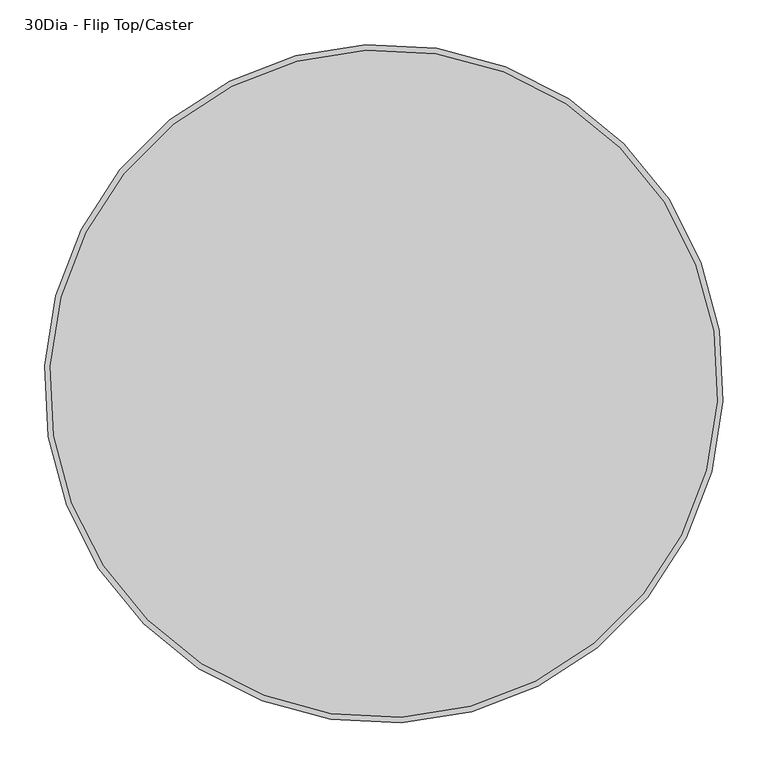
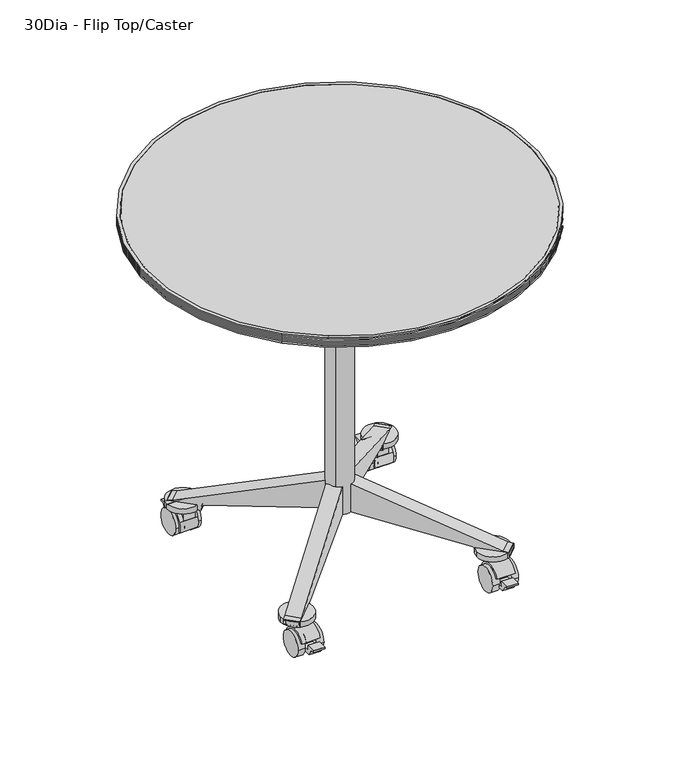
"""IFC4 building model written with IfcOpenShell, lengths in millimetres: furniture geometry, Coalesse_AM_Table_Conference_Ballet_Table_Round : 30Dia - Flip Top/Caster."""

from ifc_helpers import new_model, si_unit, point, frame, frame_2d, origin, origin_2d, place, context, project, spatial, polyline, circle_curve, trimmed, segment, composite_curve, outline, extrude, source, transform, mapped, element, save
from ifc_brep_helpers import plane_surface, cylinder_surface, revolved_surface, advanced_brep


def furniture_30dia_flip_top_caster_9c263363(model_context):
    return source(origin(), model_context, "Body", "SolidModel", [
        extrude(outline(composite_curve([segment(trimmed(circle_curve(frame_2d((1.04e-05, -1.04e-05)), 25.3999999), [point((-17.9605018, -17.9605225))], [point((17.9605225, 17.9605018))], False, "CARTESIAN"), True, "CONTINUOUS"), segment(trimmed(circle_curve(frame_2d((1.04e-05, -1.04e-05)), 25.3999999), [point((17.9605225, 17.9605018))], [point((-17.9605018, -17.9605225))], False, "CARTESIAN"), True, "CONTINUOUS")], self_intersect=False)), frame((0.0, 0.0, 607.6784119), z_axis=(0.0, 0.0, 1.0), x_axis=(1.0, 0.0, 0.0)), (0.0, 0.0, 1.0), 50.3081696),
        extrude(outline(composite_curve([segment(trimmed(circle_curve(frame_2d((209.2741105, 25.3444377)), 28.8343721), [point((182.4395783, 14.7931869))], [point((182.4395783, 35.8956886))], False, "CARTESIAN"), True, "CONTINUOUS"), segment(trimmed(circle_curve(frame_2d((207.8788336, 25.8930561)), 27.3351124), [point((182.4395783, 35.8956886))], [point((197.8152878, 51.3082762))], False, "CARTESIAN"), True, "CONTINUOUS"), segment(trimmed(circle_curve(frame_2d((209.4353674, 26.7032164)), 27.2109394), [point((197.8152878, 51.3082762))], [point((234.6796249, 36.8601197))], False, "CARTESIAN"), True, "CONTINUOUS"), segment(polyline([(234.6796249, 36.8601197), (231.2540436, 35.7749086)]), True, "CONTINUOUS"), segment(trimmed(circle_curve(frame_2d((208.7663144, 24.9907393)), 24.9398531), [point((231.2540436, 35.7749086))], [point((185.3508649, 16.4051117))], True, "CARTESIAN"), True, "CONTINUOUS"), segment(polyline([(185.3508649, 16.4051117), (182.4395783, 14.7931869)]), True, "CONTINUOUS")], self_intersect=False)), frame((174.0984431, 0.0, 0.0), z_axis=(1.0, 0.0, 0.0), x_axis=(0.0, 1.0, 0.0)), (0.0, 0.0, 1.0), 36.0286787),
        extrude(outline(composite_curve([segment(trimmed(circle_curve(frame_2d((208.7663144, 24.9907393)), 24.9398531), [point((233.7061675, 24.9907393))], [point((183.8264612, 24.9907393))], False, "CARTESIAN"), True, "CONTINUOUS"), segment(trimmed(circle_curve(frame_2d((208.7663144, 24.9907393)), 24.9398531), [point((183.8264612, 24.9907393))], [point((233.7061675, 24.9907393))], False, "CARTESIAN"), True, "CONTINUOUS")], self_intersect=False)), frame((166.2968952, 0.0, 0.0), z_axis=(1.0, 0.0, 0.0), x_axis=(0.0, 1.0, 0.0)), (0.0, 0.0, 1.0), 14.6120158),
        extrude(outline(composite_curve([segment(polyline([(197.8152878, 63.5225277), (197.8152878, 51.3082762)]), True, "CONTINUOUS"), segment(trimmed(circle_curve(frame_2d((209.4353674, 26.7032164)), 27.2109394), [point((197.8152878, 51.3082762))], [point((234.6796249, 36.8601197))], False, "CARTESIAN"), True, "CONTINUOUS"), segment(polyline([(234.6796249, 36.8601197), (219.8001714, 32.1463658), (222.0637731, 25.0010719), (241.3530844, 25.0010719), (241.3530844, 35.1210973), (260.4030844, 35.1210973), (260.4030844, 31.7691038), (253.6776476, 31.7691038), (244.706152, 17.4117096), (218.9375545, 17.4117096)]), True, "CONTINUOUS"), segment(trimmed(circle_curve(frame_2d((208.672695, 25.0010719)), 12.7658043), [point((218.9375545, 17.4117096))], [point((198.9802659, 16.6930892))], False, "CARTESIAN"), True, "CONTINUOUS"), segment(polyline([(198.9802659, 16.6930892), (195.904393, 22.2484025), (182.4395783, 14.7931869)]), True, "CONTINUOUS"), segment(trimmed(circle_curve(frame_2d((209.2741105, 25.3444377)), 28.8343721), [point((182.4395783, 14.7931869))], [point((182.4395783, 35.8956886))], False, "CARTESIAN"), True, "CONTINUOUS"), segment(polyline([(182.4395783, 35.8956886), (182.4395783, 63.5225277), (197.8152878, 63.5225277)]), True, "CONTINUOUS")], self_intersect=False)), frame((179.2633359, 0.0, 0.0), z_axis=(1.0, 0.0, 0.0), x_axis=(0.0, 1.0, 0.0)), (0.0, 0.0, 1.0), 22.3970625),
        extrude(outline(composite_curve([segment(trimmed(circle_curve(frame_2d((208.7663144, 24.9907393)), 24.9398531), [point((233.7061675, 24.9907393))], [point((183.8264612, 24.9907393))], False, "CARTESIAN"), True, "CONTINUOUS"), segment(trimmed(circle_curve(frame_2d((208.7663144, 24.9907393)), 24.9398531), [point((183.8264612, 24.9907393))], [point((233.7061675, 24.9907393))], False, "CARTESIAN"), True, "CONTINUOUS")], self_intersect=False)), frame((203.3322938, 0.0, 0.0), z_axis=(1.0, 0.0, 0.0), x_axis=(0.0, 1.0, 0.0)), (0.0, 0.0, 1.0), 13.7103424),
        extrude(outline(composite_curve([segment(trimmed(circle_curve(frame_2d((209.2741105, 25.3444377)), 28.8343721), [point((182.4395783, 14.7931869))], [point((182.4395783, 35.8956886))], False, "CARTESIAN"), True, "CONTINUOUS"), segment(trimmed(circle_curve(frame_2d((207.8788336, 25.8930561)), 27.3351124), [point((182.4395783, 35.8956886))], [point((197.8152878, 51.3082762))], False, "CARTESIAN"), True, "CONTINUOUS"), segment(trimmed(circle_curve(frame_2d((209.4353674, 26.7032164)), 27.2109394), [point((197.8152878, 51.3082762))], [point((234.6796249, 36.8601197))], False, "CARTESIAN"), True, "CONTINUOUS"), segment(polyline([(234.6796249, 36.8601197), (231.2540436, 35.7749086)]), True, "CONTINUOUS"), segment(trimmed(circle_curve(frame_2d((208.7663144, 24.9907393)), 24.9398531), [point((231.2540436, 35.7749086))], [point((185.3508649, 16.4051117))], True, "CARTESIAN"), True, "CONTINUOUS"), segment(polyline([(185.3508649, 16.4051117), (182.4395783, 14.7931869)]), True, "CONTINUOUS")], self_intersect=False)), frame((-210.1271218, 0.0, 0.0), z_axis=(1.0, 0.0, 0.0), x_axis=(0.0, 1.0, 0.0)), (0.0, 0.0, 1.0), 36.0286787),
        extrude(outline(composite_curve([segment(trimmed(circle_curve(frame_2d((208.7663144, 24.9907393)), 24.9398531), [point((233.7061675, 24.9907393))], [point((183.8264612, 24.9907393))], False, "CARTESIAN"), True, "CONTINUOUS"), segment(trimmed(circle_curve(frame_2d((208.7663144, 24.9907393)), 24.9398531), [point((183.8264612, 24.9907393))], [point((233.7061675, 24.9907393))], False, "CARTESIAN"), True, "CONTINUOUS")], self_intersect=False)), frame((-180.908911, 0.0, 0.0), z_axis=(1.0, 0.0, 0.0), x_axis=(0.0, 1.0, 0.0)), (0.0, 0.0, 1.0), 14.6120158),
        extrude(outline(composite_curve([segment(polyline([(197.8152878, 63.5225277), (197.8152878, 51.3082762)]), True, "CONTINUOUS"), segment(trimmed(circle_curve(frame_2d((209.4353674, 26.7032164)), 27.2109394), [point((197.8152878, 51.3082762))], [point((234.6796249, 36.8601197))], False, "CARTESIAN"), True, "CONTINUOUS"), segment(polyline([(234.6796249, 36.8601197), (219.8001714, 32.1463658), (222.0637731, 25.0010719), (241.3530844, 25.0010719), (241.3530844, 35.1210973), (260.4030844, 35.1210973), (260.4030844, 31.7691038), (253.6776476, 31.7691038), (244.706152, 17.4117096), (218.9375545, 17.4117096)]), True, "CONTINUOUS"), segment(trimmed(circle_curve(frame_2d((208.672695, 25.0010719)), 12.7658043), [point((218.9375545, 17.4117096))], [point((198.9802659, 16.6930892))], False, "CARTESIAN"), True, "CONTINUOUS"), segment(polyline([(198.9802659, 16.6930892), (195.904393, 22.2484025), (182.4395783, 14.7931869)]), True, "CONTINUOUS"), segment(trimmed(circle_curve(frame_2d((209.2741105, 25.3444377)), 28.8343721), [point((182.4395783, 14.7931869))], [point((182.4395783, 35.8956886))], False, "CARTESIAN"), True, "CONTINUOUS"), segment(polyline([(182.4395783, 35.8956886), (182.4395783, 63.5225277), (197.8152878, 63.5225277)]), True, "CONTINUOUS")], self_intersect=False)), frame((-201.6603984, 0.0, 0.0), z_axis=(1.0, 0.0, 0.0), x_axis=(0.0, 1.0, 0.0)), (0.0, 0.0, 1.0), 22.3970625),
        extrude(outline(composite_curve([segment(trimmed(circle_curve(frame_2d((208.7663144, 24.9907393)), 24.9398531), [point((233.7061675, 24.9907393))], [point((183.8264612, 24.9907393))], False, "CARTESIAN"), True, "CONTINUOUS"), segment(trimmed(circle_curve(frame_2d((208.7663144, 24.9907393)), 24.9398531), [point((183.8264612, 24.9907393))], [point((233.7061675, 24.9907393))], False, "CARTESIAN"), True, "CONTINUOUS")], self_intersect=False)), frame((-217.0426362, 0.0, 0.0), z_axis=(1.0, 0.0, 0.0), x_axis=(0.0, 1.0, 0.0)), (0.0, 0.0, 1.0), 13.7103424),
        extrude(outline(composite_curve([segment(polyline([(-182.4395783, 14.7931869), (-185.3508649, 16.4051117)]), True, "CONTINUOUS"), segment(trimmed(circle_curve(frame_2d((-208.7663144, 24.9907393)), 24.9398531), [point((-185.3508649, 16.4051117))], [point((-231.2540436, 35.7749086))], True, "CARTESIAN"), True, "CONTINUOUS"), segment(polyline([(-231.2540436, 35.7749086), (-234.6796249, 36.8601197)]), True, "CONTINUOUS"), segment(trimmed(circle_curve(frame_2d((-209.4353674, 26.7032164)), 27.2109394), [point((-234.6796249, 36.8601197))], [point((-197.8152878, 51.3082762))], False, "CARTESIAN"), True, "CONTINUOUS"), segment(trimmed(circle_curve(frame_2d((-207.8788336, 25.8930561)), 27.3351124), [point((-197.8152878, 51.3082762))], [point((-182.4395783, 35.8956886))], False, "CARTESIAN"), True, "CONTINUOUS"), segment(trimmed(circle_curve(frame_2d((-209.2741105, 25.3444377)), 28.8343721), [point((-182.4395783, 35.8956886))], [point((-182.4395783, 14.7931869))], False, "CARTESIAN"), True, "CONTINUOUS")], self_intersect=False)), frame((-210.1271218, 0.0, 0.0), z_axis=(1.0, 0.0, 0.0), x_axis=(0.0, 1.0, 0.0)), (0.0, 0.0, 1.0), 36.0286787),
        extrude(outline(composite_curve([segment(trimmed(circle_curve(frame_2d((-208.7663144, 24.9907393)), 24.9398531), [point((-233.7061675, 24.9907393))], [point((-183.8264612, 24.9907393))], False, "CARTESIAN"), True, "CONTINUOUS"), segment(trimmed(circle_curve(frame_2d((-208.7663144, 24.9907393)), 24.9398531), [point((-183.8264612, 24.9907393))], [point((-233.7061675, 24.9907393))], False, "CARTESIAN"), True, "CONTINUOUS")], self_intersect=False)), frame((-180.908911, 0.0, 0.0), z_axis=(1.0, 0.0, 0.0), x_axis=(0.0, 1.0, 0.0)), (0.0, 0.0, 1.0), 14.6120158),
        extrude(outline(composite_curve([segment(polyline([(-197.8152878, 63.5225277), (-182.4395783, 63.5225277), (-182.4395783, 35.8956886)]), True, "CONTINUOUS"), segment(trimmed(circle_curve(frame_2d((-209.2741105, 25.3444377)), 28.8343721), [point((-182.4395783, 35.8956886))], [point((-182.4395783, 14.7931869))], False, "CARTESIAN"), True, "CONTINUOUS"), segment(polyline([(-182.4395783, 14.7931869), (-195.904393, 22.2484025), (-198.9802659, 16.6930892)]), True, "CONTINUOUS"), segment(trimmed(circle_curve(frame_2d((-208.672695, 25.0010719)), 12.7658043), [point((-198.9802659, 16.6930892))], [point((-218.9375545, 17.4117096))], False, "CARTESIAN"), True, "CONTINUOUS"), segment(polyline([(-218.9375545, 17.4117096), (-244.706152, 17.4117096), (-253.6776476, 31.7691038), (-260.4030844, 31.7691038), (-260.4030844, 35.1210973), (-241.3530844, 35.1210973), (-241.3530844, 25.0010719), (-222.0637731, 25.0010719), (-219.8001714, 32.1463658), (-234.6796249, 36.8601197)]), True, "CONTINUOUS"), segment(trimmed(circle_curve(frame_2d((-209.4353674, 26.7032164)), 27.2109394), [point((-234.6796249, 36.8601197))], [point((-197.8152878, 51.3082762))], False, "CARTESIAN"), True, "CONTINUOUS"), segment(polyline([(-197.8152878, 51.3082762), (-197.8152878, 63.5225277)]), True, "CONTINUOUS")], self_intersect=False)), frame((-201.6603984, 0.0, 0.0), z_axis=(1.0, 0.0, 0.0), x_axis=(0.0, 1.0, 0.0)), (0.0, 0.0, 1.0), 22.3970625),
        extrude(outline(composite_curve([segment(trimmed(circle_curve(frame_2d((-208.7663144, 24.9907393)), 24.9398531), [point((-233.7061675, 24.9907393))], [point((-183.8264612, 24.9907393))], False, "CARTESIAN"), True, "CONTINUOUS"), segment(trimmed(circle_curve(frame_2d((-208.7663144, 24.9907393)), 24.9398531), [point((-183.8264612, 24.9907393))], [point((-233.7061675, 24.9907393))], False, "CARTESIAN"), True, "CONTINUOUS")], self_intersect=False)), frame((-217.0426362, 0.0, 0.0), z_axis=(1.0, 0.0, 0.0), x_axis=(0.0, 1.0, 0.0)), (0.0, 0.0, 1.0), 13.7103424),
        extrude(outline(polyline([(158.4621346, 17.0356733), (169.8930132, 8.1048922), (169.8930132, 0.8331186), (159.98106, -9.0788345), (38.5409959, -9.0788345), (28.462086, 1.0000754), (28.462086, 7.6856478), (37.8121114, 17.0356733), (158.4621346, 17.0356733)])), frame((0.0, 0.0, 687.2912849), z_axis=(0.0, 0.0, 1.0), x_axis=(1.0, 0.0, 0.0)), (0.0, 0.0, 1.0), 6.5168503),
        extrude(outline(composite_curve([segment(trimmed(circle_curve(frame_2d((669.1002966, -84.2761543)), 7.8975043), [point((669.1002966, -92.1736586))], [point((669.1002966, -76.3786501))], False, "CARTESIAN"), True, "CONTINUOUS"), segment(trimmed(circle_curve(frame_2d((669.1002966, -84.2761543)), 7.8975043), [point((669.1002966, -76.3786501))], [point((669.1002966, -92.1736586))], False, "CARTESIAN"), True, "CONTINUOUS")], self_intersect=False)), frame((0.0, -102.0227757, 0.0), z_axis=(0.0, 1.0, 0.0), x_axis=(0.0, 0.0, 1.0)), (0.0, 0.0, 1.0), 207.3263413),
        extrude(outline(polyline([(77.1619615, -102.0227757), (72.7168839, -102.0227757), (72.7168839, 105.3035655), (77.1619615, 105.3035655), (77.1619615, -102.0227757)])), frame((0.0, 0.0, 657.9865814), z_axis=(0.0, 0.0, 1.0), x_axis=(1.0, 0.0, 0.0)), (0.0, 0.0, 1.0), 25.6753708),
        extrude(outline(polyline([(105.3035655, 652.7037643), (101.8153095, 652.7037643), (101.8153095, 700.0114872), (-94.3997971, 700.0114872), (-94.3997971, 652.7037643), (-97.8879563, 652.7037643), (-97.8879563, 704.85), (105.3035655, 704.85), (105.3035655, 652.7037643)])), frame((-111.7977681, 0.0, 0.0), z_axis=(1.0, 0.0, 0.0), x_axis=(0.0, 1.0, 0.0)), (0.0, 0.0, 1.0), 220.3746008),
        extrude(outline(polyline([(-91.8596905, 688.7419716), (99.2752998, 688.7419716), (99.2752998, 652.7037643), (94.1954742, 652.7037643), (94.1954742, 683.6619522), (-86.7795016, 683.6619522), (-86.7795016, 652.7037643), (-91.8596905, 652.7037643), (-91.8596905, 688.7419716)])), frame((-111.7977681, 0.0, 0.0), z_axis=(1.0, 0.0, 0.0), x_axis=(0.0, 1.0, 0.0)), (0.0, 0.0, 1.0), 220.3746008),
        advanced_brep(
        [(210.1271218, -182.4395783, 14.7931869), (210.1271218, -182.4395783, 35.8956886), (210.1271218, -197.8152878, 51.3082762), (210.1271218, -234.6796249, 36.8601197), (210.1271218, -231.2540436, 35.7749086), (210.1271218, -185.3508649, 16.4051117), (174.0984431, -182.4395783, 14.7931869), (174.0984431, -185.3508649, 16.4051117), (174.0984431, -231.2540436, 35.7749086), (174.0984431, -234.6796249, 36.8601197), (174.0984431, -197.8152878, 51.3082762), (174.0984431, -182.4395783, 35.8956886), (201.6603984, -197.8152878, 51.3082762), (179.2633359, -197.8152878, 51.3082762), (179.2633359, -182.4395783, 35.8956886), (201.6603984, -182.4395783, 35.8956886), (179.2633359, -231.2540436, 35.7749086), (179.2633359, -219.8001714, 32.1463658), (201.6603984, -219.8001714, 32.1463658), (201.6603984, -231.2540436, 35.7749086), (201.6603984, -185.3508649, 16.4051117), (201.6603984, -195.904393, 22.2484025), (179.2633359, -195.904393, 22.2484025), (179.2633359, -185.3508649, 16.4051117), (201.6603984, -197.8152878, 63.5225277), (201.6603984, -182.4395783, 63.5225277), (201.6603984, -222.0637731, 25.0010719), (201.6603984, -241.3530844, 25.0010719), (201.6603984, -241.3530844, 35.1210973), (201.6603984, -260.4030844, 35.1210973), (201.6603984, -260.4030844, 31.7691038), (201.6603984, -253.6776476, 31.7691038), (201.6603984, -244.706152, 17.4117096), (201.6603984, -218.9375545, 17.4117096), (201.6603984, -198.9802659, 16.6930892), (179.2633359, -197.8152878, 63.5225277), (179.2633359, -182.4395783, 63.5225277), (179.2633359, -198.9802659, 16.6930892), (179.2633359, -218.9375545, 17.4117096), (179.2633359, -244.706152, 17.4117096), (179.2633359, -253.6776476, 31.7691038), (179.2633359, -260.4030844, 31.7691038), (179.2633359, -260.4030844, 35.1210973), (179.2633359, -241.3530844, 35.1210973), (179.2633359, -241.3530844, 25.0010719), (179.2633359, -222.0637731, 25.0010719)],
        [
            (0, 1, circle_curve(frame((210.1271218, -209.2741105, 25.3444377), z_axis=(1.0, 0.0, 0.0), x_axis=(0.0, 1.0, 0.0)), 28.8343721)),
            (1, 2, circle_curve(frame((210.1271218, -207.8788336, 25.8930561), z_axis=(1.0, 0.0, 0.0), x_axis=(0.0, 1.0, 0.0)), 27.3351124)),
            (2, 3, circle_curve(frame((210.1271218, -209.4353674, 26.7032164), z_axis=(1.0, 0.0, 0.0), x_axis=(0.0, 1.0, 0.0)), 27.2109394)),
            (3, 4),
            (4, 5, circle_curve(frame((210.1271218, -208.7663144, 24.9907393), z_axis=(-1.0, 0.0, 0.0), x_axis=(0.0, 1.0, 0.0)), 24.9398531)),
            (5, 0),
            (6, 7),
            (7, 8, circle_curve(frame((174.0984431, -208.7663144, 24.9907393), z_axis=(1.0, 0.0, 0.0), x_axis=(0.0, 1.0, 0.0)), 24.9398531)),
            (8, 9),
            (9, 10, circle_curve(frame((174.0984431, -209.4353674, 26.7032164), z_axis=(-1.0, 0.0, 0.0), x_axis=(0.0, 1.0, 0.0)), 27.2109394)),
            (10, 11, circle_curve(frame((174.0984431, -207.8788336, 25.8930561), z_axis=(-1.0, 0.0, 0.0), x_axis=(0.0, 1.0, 0.0)), 27.3351124)),
            (11, 6, circle_curve(frame((174.0984431, -209.2741105, 25.3444377), z_axis=(-1.0, 0.0, 0.0), x_axis=(0.0, 1.0, 0.0)), 28.8343721)),
            (9, 3),
            (2, 12),
            (12, 13),
            (13, 10),
            (0, 6),
            (11, 14),
            (14, 15),
            (15, 1),
            (8, 16),
            (16, 17),
            (17, 18),
            (18, 19),
            (19, 4),
            (5, 20),
            (20, 21),
            (21, 22),
            (22, 23),
            (23, 7),
            (15, 12, circle_curve(frame((201.6603984, -207.8788336, 25.8930561), z_axis=(1.0, 0.0, 0.0), x_axis=(0.0, 1.0, 0.0)), 27.3351124)),
            (13, 14, circle_curve(frame((179.2633359, -207.8788336, 25.8930561), z_axis=(-1.0, 0.0, 0.0), x_axis=(0.0, 1.0, 0.0)), 27.3351124)),
            (19, 20, circle_curve(frame((201.6603984, -208.7663144, 24.9907393), z_axis=(-1.0, 0.0, 0.0), x_axis=(0.0, 1.0, 0.0)), 24.9398531)),
            (23, 16, circle_curve(frame((179.2633359, -208.7663144, 24.9907393), z_axis=(1.0, 0.0, 0.0), x_axis=(0.0, 1.0, 0.0)), 24.9398531)),
            (24, 12),
            (15, 25),
            (25, 24),
            (18, 26),
            (26, 27),
            (27, 28),
            (28, 29),
            (29, 30),
            (30, 31),
            (31, 32),
            (32, 33),
            (33, 34, circle_curve(frame((201.6603984, -208.672695, 25.0010719), z_axis=(1.0, 0.0, 0.0), x_axis=(0.0, 1.0, 0.0)), 12.7658043)),
            (34, 21),
            (35, 36),
            (36, 14),
            (13, 35),
            (22, 37),
            (37, 38, circle_curve(frame((179.2633359, -208.672695, 25.0010719), z_axis=(-1.0, 0.0, 0.0), x_axis=(0.0, 1.0, 0.0)), 12.7658043)),
            (38, 39),
            (39, 40),
            (40, 41),
            (41, 42),
            (42, 43),
            (43, 44),
            (44, 45),
            (45, 17),
            (24, 35),
            (36, 25),
            (45, 26),
            (33, 38),
            (37, 34),
            (44, 27),
            (43, 28),
            (42, 29),
            (41, 30),
            (40, 31),
            (39, 32),
        ],
        [
            plane_surface(frame((210.1271218, -180.4397384, 25.3444377), z_axis=(1.0, 0.0, 0.0), x_axis=(0.0, 0.0, 1.0))),
            plane_surface(frame((174.0984431, -180.4397384, 25.3444377), z_axis=(-1.0, 0.0, 0.0), x_axis=(0.0, 0.0, -1.0))),
            cylinder_surface(frame((174.0984431, -209.4353674, 26.7032164), z_axis=(1.0, 0.0, 0.0), x_axis=(0.0, 1.0, 0.0)), 27.2109394),
            cylinder_surface(frame((174.0984431, -209.2741105, 25.3444377), z_axis=(1.0, 0.0, 0.0), x_axis=(0.0, 1.0, 0.0)), 28.8343721),
            plane_surface(frame((210.1271218, -234.6796249, 36.8601197), z_axis=(0.0, -0.30200390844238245, -0.9533066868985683), x_axis=(-1.0, 0.0, 0.0))),
            plane_surface(frame((210.1271218, -185.3508649, 16.4051117), z_axis=(0.0, -0.4843894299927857, -0.8748524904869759), x_axis=(-1.0, 0.0, 0.0))),
            cylinder_surface(frame((174.0984431, -207.8788336, 25.8930561), z_axis=(1.0, 0.0, 0.0), x_axis=(0.0, 1.0, 0.0)), 27.3351124),
            revolved_surface(polyline([(201.6603984, -183.8264613, 24.9907393), (210.1271218, -183.8264613, 24.9907393)]), (174.0984431, -208.7663144, 24.9907393), (-1.0, 0.0, 0.0)),
            revolved_surface(polyline([(174.0984431, -183.8264613, 24.9907393), (179.2633359, -183.8264613, 24.9907393)]), (174.0984431, -208.7663144, 24.9907393), (-1.0, 0.0, 0.0)),
            plane_surface(frame((201.6603984, -197.8152878, 63.5225277), z_axis=(1.0, 0.0, 0.0), x_axis=(0.0, 0.0, -1.0))),
            plane_surface(frame((179.2633359, -197.8152878, 63.5225277), z_axis=(-1.0, 0.0, 0.0), x_axis=(0.0, 0.0, 1.0))),
            plane_surface(frame((201.6603984, -197.8152878, 63.5225277), z_axis=(0.0, -1.0, 0.0), x_axis=(-1.0, 0.0, 0.0))),
            plane_surface(frame((201.6603984, -182.4395783, 35.8956886), z_axis=(0.0, 1.0, 0.0), x_axis=(-1.0, 0.0, 0.0))),
            plane_surface(frame((201.6603984, -182.4395783, 63.5225277), z_axis=(0.0, 0.0, 1.0), x_axis=(-1.0, 0.0, 0.0))),
            plane_surface(frame((201.6603984, -219.8001714, 32.1463658), z_axis=(0.0, -0.9533066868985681, 0.3020039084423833), x_axis=(-1.0, 0.0, 0.0))),
            cylinder_surface(frame((179.2633359, -208.672695, 25.0010719), z_axis=(1.0, 0.0, 0.0), x_axis=(0.0, 1.0, 0.0)), 12.7658043),
            plane_surface(frame((201.6603984, -198.9802659, 16.6930892), z_axis=(0.0, 0.8748524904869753, -0.48438942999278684), x_axis=(-1.0, 0.0, 0.0))),
            plane_surface(frame((201.6603984, -222.0637731, 25.0010719), z_axis=(0.0, 0.0, 1.0), x_axis=(-1.0, 0.0, 0.0))),
            plane_surface(frame((201.6603984, -241.3530844, 25.0010719), z_axis=(0.0, 1.0, 0.0), x_axis=(-1.0, 0.0, 0.0))),
            plane_surface(frame((201.6603984, -241.3530844, 35.1210973), z_axis=(0.0, 0.0, 1.0), x_axis=(-1.0, 0.0, 0.0))),
            plane_surface(frame((201.6603984, -260.4030844, 35.1210973), z_axis=(0.0, -1.0, 0.0), x_axis=(-1.0, 0.0, 0.0))),
            plane_surface(frame((201.6603984, -260.4030844, 31.7691038), z_axis=(0.0, 0.0, -1.0), x_axis=(-1.0, 0.0, 0.0))),
            plane_surface(frame((201.6603984, -253.6776476, 31.7691038), z_axis=(0.0, -0.8480480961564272, -0.529919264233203), x_axis=(-1.0, 0.0, 0.0))),
            plane_surface(frame((201.6603984, -244.706152, 17.4117096), z_axis=(0.0, 0.0, -1.0), x_axis=(-1.0, 0.0, 0.0))),
        ],
        [
            (0, [[1, 2, 3, 4, 5, 6]]),
            (1, [[7, 8, 9, 10, 11, 12]]),
            (2, [[13, -3, 14, 15, 16, -10]]),
            (3, [[-1, 17, -12, 18, 19, 20]]),
            (4, [[-4, -13, -9, 21, 22, 23, 24, 25]]),
            (5, [[-6, 26, 27, 28, 29, 30, -7, -17]]),
            (6, [[-2, -20, 31, -14]]),
            (6, [[-11, -16, 32, -18]]),
            (7, [[-5, -25, 33, -26]]),
            (8, [[-8, -30, 34, -21]]),
            (9, [[35, -31, 36, 37]]),
            (9, [[38, 39, 40, 41, 42, 43, 44, 45, 46, 47, -27, -33, -24]]),
            (10, [[48, 49, -32, 50]]),
            (10, [[51, 52, 53, 54, 55, 56, 57, 58, 59, 60, -22, -34, -29]]),
            (11, [[-35, 61, -50, -15]]),
            (12, [[-36, -19, -49, 62]]),
            (13, [[-37, -62, -48, -61]]),
            (14, [[-38, -23, -60, 63]]),
            (15, [[-46, 64, -52, 65]]),
            (16, [[-47, -65, -51, -28]]),
            (17, [[-39, -63, -59, 66]]),
            (18, [[-40, -66, -58, 67]]),
            (19, [[-41, -67, -57, 68]]),
            (20, [[-42, -68, -56, 69]]),
            (21, [[-43, -69, -55, 70]]),
            (22, [[-44, -70, -54, 71]]),
            (23, [[-45, -71, -53, -64]]),
        ],
    ),
        extrude(outline(composite_curve([segment(trimmed(circle_curve(frame_2d((-208.7663144, 24.9907393)), 24.9398531), [point((-233.7061675, 24.9907393))], [point((-183.8264612, 24.9907393))], False, "CARTESIAN"), True, "CONTINUOUS"), segment(trimmed(circle_curve(frame_2d((-208.7663144, 24.9907393)), 24.9398531), [point((-183.8264612, 24.9907393))], [point((-233.7061675, 24.9907393))], False, "CARTESIAN"), True, "CONTINUOUS")], self_intersect=False)), frame((166.2968952, 0.0, 0.0), z_axis=(1.0, 0.0, 0.0), x_axis=(0.0, 1.0, 0.0)), (0.0, 0.0, 1.0), 14.6120158),
        extrude(outline(composite_curve([segment(trimmed(circle_curve(frame_2d((-208.7663144, 24.9907393)), 24.9398531), [point((-233.7061675, 24.9907393))], [point((-183.8264612, 24.9907393))], False, "CARTESIAN"), True, "CONTINUOUS"), segment(trimmed(circle_curve(frame_2d((-208.7663144, 24.9907393)), 24.9398531), [point((-183.8264612, 24.9907393))], [point((-233.7061675, 24.9907393))], False, "CARTESIAN"), True, "CONTINUOUS")], self_intersect=False)), frame((203.3322938, 0.0, 0.0), z_axis=(1.0, 0.0, 0.0), x_axis=(0.0, 1.0, 0.0)), (0.0, 0.0, 1.0), 13.7103424),
        extrude(outline(composite_curve([segment(trimmed(circle_curve(frame_2d((-194.715793, 197.3207687)), 31.75), [point((-226.465793, 197.3207687))], [point((-162.965793, 197.3207687))], False, "CARTESIAN"), True, "CONTINUOUS"), segment(trimmed(circle_curve(frame_2d((-194.715793, 197.3207687)), 31.75), [point((-162.965793, 197.3207687))], [point((-226.465793, 197.3207687))], False, "CARTESIAN"), True, "CONTINUOUS")], self_intersect=False)), frame((0.0, 0.0, 62.0397209), z_axis=(0.0, 0.0, 1.0), x_axis=(1.0, 0.0, 0.0)), (0.0, 0.0, 1.0), 10.7840801),
        extrude(outline(composite_curve([segment(trimmed(circle_curve(frame_2d((191.7194605, 196.5270187)), 31.75), [point((159.9694605, 196.5270187))], [point((223.4694605, 196.5270187))], False, "CARTESIAN"), True, "CONTINUOUS"), segment(trimmed(circle_curve(frame_2d((191.7194605, 196.5270187)), 31.75), [point((223.4694605, 196.5270187))], [point((159.9694605, 196.5270187))], False, "CARTESIAN"), True, "CONTINUOUS")], self_intersect=False)), frame((0.0, 0.0, 62.0397209), z_axis=(0.0, 0.0, 1.0), x_axis=(1.0, 0.0, 0.0)), (0.0, 0.0, 1.0), 10.7840801),
        extrude(outline(composite_curve([segment(trimmed(circle_curve(frame_2d((-194.715793, -191.2787692)), 31.75), [point((-226.465793, -191.2787692))], [point((-162.965793, -191.2787692))], False, "CARTESIAN"), True, "CONTINUOUS"), segment(trimmed(circle_curve(frame_2d((-194.715793, -191.2787692)), 31.75), [point((-162.965793, -191.2787692))], [point((-226.465793, -191.2787692))], False, "CARTESIAN"), True, "CONTINUOUS")], self_intersect=False)), frame((0.0, 0.0, 62.0397209), z_axis=(0.0, 0.0, 1.0), x_axis=(1.0, 0.0, 0.0)), (0.0, 0.0, 1.0), 10.7840801),
        extrude(outline(composite_curve([segment(trimmed(circle_curve(frame_2d((191.7194605, -190.4850192)), 31.75), [point((159.9694605, -190.4850192))], [point((223.4694605, -190.4850192))], False, "CARTESIAN"), True, "CONTINUOUS"), segment(trimmed(circle_curve(frame_2d((191.7194605, -190.4850192)), 31.75), [point((223.4694605, -190.4850192))], [point((159.9694605, -190.4850192))], False, "CARTESIAN"), True, "CONTINUOUS")], self_intersect=False)), frame((0.0, 0.0, 62.0397209), z_axis=(0.0, 0.0, 1.0), x_axis=(1.0, 0.0, 0.0)), (0.0, 0.0, 1.0), 10.7840801),
        extrude(outline(composite_curve([segment(polyline([(-57.749273, 0.0), (0.0, 0.0), (-90.9931074, -269.8641919), (-92.3030079, -279.1846177)]), True, "CONTINUOUS"), segment(trimmed(circle_curve(frame_2d((-93.9206951, -278.9572666)), 1.6335852), [point((-92.3030079, -279.1846177))], [point((-93.8206014, -280.5877823))], False, "CARTESIAN"), True, "CONTINUOUS"), segment(trimmed(circle_curve(frame_2d((-95.8523928, -247.4901147)), 33.1599725), [point((-93.8206014, -280.5877823))], [point((-101.682402, -280.1335639))], False, "CARTESIAN"), True, "CONTINUOUS"), segment(trimmed(circle_curve(frame_2d((-101.2796868, -277.8786768)), 2.2905666), [point((-101.682402, -280.1335639))], [point((-103.5674671, -277.7657306))], False, "CARTESIAN"), True, "CONTINUOUS"), segment(polyline([(-103.5674671, -277.7657306), (-103.5674671, -222.4322812)]), True, "CONTINUOUS"), segment(trimmed(circle_curve(frame_2d((-100.6154331, -221.9840334)), 2.9858719), [point((-103.5674671, -222.4322812))], [point((-100.2998684, -219.0148838))], False, "CARTESIAN"), True, "CONTINUOUS"), segment(trimmed(circle_curve(frame_2d((-98.3053249, -200.2482144)), 18.872363), [point((-100.2998684, -219.0148838))], [point((-94.5016021, -218.7332835))], True, "CARTESIAN"), True, "CONTINUOUS"), segment(trimmed(circle_curve(frame_2d((-95.1495986, -215.5841949)), 3.2150673), [point((-94.5016021, -218.7332835))], [point((-91.9741141, -216.0871422))], True, "CARTESIAN"), True, "CONTINUOUS"), segment(polyline([(-91.9741141, -216.0871422), (-57.749273, 0.0)]), True, "CONTINUOUS")], self_intersect=False)), frame((-23.5273141, 7.7834997, 165.607188), z_axis=(0.7071067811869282, 0.707106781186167, 0.0), x_axis=(0.0, 0.0, 1.0)), (0.0, 0.0, 1.0), 29.2174476),
        extrude(outline(composite_curve([segment(polyline([(-57.749273, 44.2801775), (-91.9741141, 260.3673198)]), True, "CONTINUOUS"), segment(trimmed(circle_curve(frame_2d((-95.1495986, 259.8643724)), 3.2150673), [point((-91.9741141, 260.3673198))], [point((-94.5016021, 263.013461))], True, "CARTESIAN"), True, "CONTINUOUS"), segment(trimmed(circle_curve(frame_2d((-98.3053249, 244.5283919)), 18.872363), [point((-94.5016021, 263.013461))], [point((-100.2998684, 263.2950613))], True, "CARTESIAN"), True, "CONTINUOUS"), segment(trimmed(circle_curve(frame_2d((-100.6154331, 266.2642109)), 2.9858719), [point((-100.2998684, 263.2950613))], [point((-103.5674671, 266.7124587))], False, "CARTESIAN"), True, "CONTINUOUS"), segment(polyline([(-103.5674671, 266.7124587), (-103.5674671, 322.0459081)]), True, "CONTINUOUS"), segment(trimmed(circle_curve(frame_2d((-101.2796868, 322.1588543)), 2.2905666), [point((-103.5674671, 322.0459081))], [point((-101.682402, 324.4137415))], False, "CARTESIAN"), True, "CONTINUOUS"), segment(trimmed(circle_curve(frame_2d((-95.8523928, 291.7702923)), 33.1599725), [point((-101.682402, 324.4137415))], [point((-93.8206014, 324.8679598))], False, "CARTESIAN"), True, "CONTINUOUS"), segment(trimmed(circle_curve(frame_2d((-93.9206951, 323.2374442)), 1.6335852), [point((-93.8206014, 324.8679598))], [point((-92.3030079, 323.4647953))], False, "CARTESIAN"), True, "CONTINUOUS"), segment(polyline([(-92.3030079, 323.4647953), (-90.9931074, 314.1443694), (0.0, 44.2801775), (-57.749273, 44.2801775)]), True, "CONTINUOUS")], self_intersect=False)), frame((-23.5273141, 7.7834997, 165.607188), z_axis=(0.7071067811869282, 0.707106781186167, 0.0), x_axis=(0.0, 0.0, 1.0)), (0.0, 0.0, 1.0), 29.2174476),
        extrude(outline(composite_curve([segment(polyline([(-57.749273, 0.0), (0.0, 0.0), (-90.9931074, -269.8641919), (-92.3030079, -279.1846177)]), True, "CONTINUOUS"), segment(trimmed(circle_curve(frame_2d((-93.9206951, -278.9572666)), 1.6335852), [point((-92.3030079, -279.1846177))], [point((-93.8206014, -280.5877823))], False, "CARTESIAN"), True, "CONTINUOUS"), segment(trimmed(circle_curve(frame_2d((-95.8523928, -247.4901147)), 33.1599725), [point((-93.8206014, -280.5877823))], [point((-101.682402, -280.1335639))], False, "CARTESIAN"), True, "CONTINUOUS"), segment(trimmed(circle_curve(frame_2d((-101.2796868, -277.8786768)), 2.2905666), [point((-101.682402, -280.1335639))], [point((-103.5674671, -277.7657306))], False, "CARTESIAN"), True, "CONTINUOUS"), segment(polyline([(-103.5674671, -277.7657306), (-103.5674671, -222.4322812)]), True, "CONTINUOUS"), segment(trimmed(circle_curve(frame_2d((-100.6154331, -221.9840334)), 2.9858719), [point((-103.5674671, -222.4322812))], [point((-100.2998684, -219.0148838))], False, "CARTESIAN"), True, "CONTINUOUS"), segment(trimmed(circle_curve(frame_2d((-98.3053249, -200.2482144)), 18.872363), [point((-100.2998684, -219.0148838))], [point((-94.5016021, -218.7332835))], True, "CARTESIAN"), True, "CONTINUOUS"), segment(trimmed(circle_curve(frame_2d((-95.1495986, -215.5841949)), 3.2150673), [point((-94.5016021, -218.7332835))], [point((-91.9741141, -216.0871422))], True, "CARTESIAN"), True, "CONTINUOUS"), segment(polyline([(-91.9741141, -216.0871422), (-57.749273, 0.0)]), True, "CONTINUOUS")], self_intersect=False)), frame((-7.7834997, -23.5273141, 165.607188), z_axis=(-0.7071067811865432, 0.7071067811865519, 0.0), x_axis=(0.0, 0.0, 1.0)), (0.0, 0.0, 1.0), 29.2174476),
        extrude(outline(composite_curve([segment(polyline([(-57.749273, 44.2801775), (-91.9741141, 260.3673198)]), True, "CONTINUOUS"), segment(trimmed(circle_curve(frame_2d((-95.1495986, 259.8643724)), 3.2150673), [point((-91.9741141, 260.3673198))], [point((-94.5016021, 263.013461))], True, "CARTESIAN"), True, "CONTINUOUS"), segment(trimmed(circle_curve(frame_2d((-98.3053249, 244.5283919)), 18.872363), [point((-94.5016021, 263.013461))], [point((-100.2998684, 263.2950613))], True, "CARTESIAN"), True, "CONTINUOUS"), segment(trimmed(circle_curve(frame_2d((-100.6154331, 266.2642109)), 2.9858719), [point((-100.2998684, 263.2950613))], [point((-103.5674671, 266.7124587))], False, "CARTESIAN"), True, "CONTINUOUS"), segment(polyline([(-103.5674671, 266.7124587), (-103.5674671, 322.0459081)]), True, "CONTINUOUS"), segment(trimmed(circle_curve(frame_2d((-101.2796868, 322.1588543)), 2.2905666), [point((-103.5674671, 322.0459081))], [point((-101.682402, 324.4137415))], False, "CARTESIAN"), True, "CONTINUOUS"), segment(trimmed(circle_curve(frame_2d((-95.8523928, 291.7702923)), 33.1599725), [point((-101.682402, 324.4137415))], [point((-93.8206014, 324.8679598))], False, "CARTESIAN"), True, "CONTINUOUS"), segment(trimmed(circle_curve(frame_2d((-93.9206951, 323.2374442)), 1.6335852), [point((-93.8206014, 324.8679598))], [point((-92.3030079, 323.4647953))], False, "CARTESIAN"), True, "CONTINUOUS"), segment(polyline([(-92.3030079, 323.4647953), (-90.9931074, 314.1443694), (0.0, 44.2801775), (-57.749273, 44.2801775)]), True, "CONTINUOUS")], self_intersect=False)), frame((-7.7834997, -23.5273141, 165.607188), z_axis=(-0.7071067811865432, 0.7071067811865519, 0.0), x_axis=(0.0, 0.0, 1.0)), (0.0, 0.0, 1.0), 29.2174476),
        extrude(outline(composite_curve([segment(trimmed(circle_curve(frame_2d((1.04e-05, -1.04e-05)), 25.3999999), [point((-17.9605018, -17.9605225))], [point((17.9605225, 17.9605018))], False, "CARTESIAN"), True, "CONTINUOUS"), segment(trimmed(circle_curve(frame_2d((1.04e-05, -1.04e-05)), 25.3999999), [point((17.9605225, 17.9605018))], [point((-17.9605018, -17.9605225))], False, "CARTESIAN"), True, "CONTINUOUS")], self_intersect=False)), frame((0.0, 0.0, 107.857915), z_axis=(0.0, 0.0, 1.0), x_axis=(1.0, 0.0, 0.0)), (0.0, 0.0, 1.0), 499.8204968),
        advanced_brep(
        [(-264.9175556, -264.9175556, 723.9), (264.9175556, 264.9175556, 723.9), (264.9175556, 264.9175556, 704.85), (-264.9175556, -264.9175556, 704.85), (-269.4087111, -269.4087111, 720.7255014), (269.4087111, 269.4087111, 720.7255014), (269.4087111, 269.4087111, 723.9), (-269.4087111, -269.4087111, 723.9), (-267.1626849, -267.1626849, 719.1372226), (267.1626849, 267.1626849, 719.1372226), (-269.4072913, -269.4072913, 717.5499574), (269.4072913, 269.4072913, 717.5499574), (-267.16794, -267.16794, 715.9572867), (267.16794, 267.16794, 715.9572867), (-269.4068502, -269.4068502, 714.3753433), (269.4068502, 269.4068502, 714.3753433), (-267.1676382, -267.1676382, 712.7853908), (267.1676382, 267.1676382, 712.7853908), (-269.4078728, -269.4078728, 711.2011743), (269.4078728, 269.4078728, 711.2011743), (-267.1671863, -267.1671863, 709.6095518), (267.1671863, 267.1671863, 709.6095518), (-269.4076836, -269.4076836, 708.0238127), (269.4076836, 269.4076836, 708.0238127), (-269.4076836, -269.4076836, 704.85), (269.4076836, 269.4076836, 704.85)],
        [
            (0, 1, circle_curve(frame((0.0, 0.0, 723.9), z_axis=(0.0, 0.0, 1.0), x_axis=(0.7071067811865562, 0.7071067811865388, 0.0)), 374.65)),
            (1, 2),
            (2, 3, circle_curve(frame((0.0, 0.0, 704.85), z_axis=(0.0, 0.0, -1.0), x_axis=(0.7071067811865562, 0.7071067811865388, 0.0)), 374.65)),
            (3, 0),
            (4, 5, circle_curve(frame((0.0, 0.0, 720.7255014), z_axis=(0.0, 0.0, 1.0), x_axis=(0.7071067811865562, 0.7071067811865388, 0.0)), 381.0014531)),
            (5, 6),
            (6, 7, circle_curve(frame((0.0, 0.0, 723.9), z_axis=(0.0, 0.0, -1.0), x_axis=(0.7071067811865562, 0.7071067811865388, 0.0)), 381.0014531)),
            (7, 4),
            (8, 9, circle_curve(frame((0.0, 0.0, 719.1372226), z_axis=(0.0, 0.0, 1.0), x_axis=(0.7071067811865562, 0.7071067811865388, 0.0)), 377.8250923)),
            (9, 5),
            (4, 8),
            (10, 11, circle_curve(frame((0.0, 0.0, 717.5499574), z_axis=(0.0, 0.0, 1.0), x_axis=(0.7071067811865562, 0.7071067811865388, 0.0)), 380.9994452)),
            (11, 9),
            (8, 10),
            (12, 13, circle_curve(frame((0.0, 0.0, 715.9572867), z_axis=(0.0, 0.0, 1.0), x_axis=(0.7071067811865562, 0.7071067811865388, 0.0)), 377.8325242)),
            (13, 11),
            (10, 12),
            (14, 15, circle_curve(frame((0.0, 0.0, 714.3753433), z_axis=(0.0, 0.0, 1.0), x_axis=(0.7071067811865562, 0.7071067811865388, 0.0)), 380.9988213)),
            (15, 13),
            (12, 14),
            (16, 17, circle_curve(frame((0.0, 0.0, 712.7853908), z_axis=(0.0, 0.0, 1.0), x_axis=(0.7071067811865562, 0.7071067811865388, 0.0)), 377.8320974)),
            (17, 15),
            (14, 16),
            (18, 19, circle_curve(frame((0.0, 0.0, 711.2011743), z_axis=(0.0, 0.0, 1.0), x_axis=(0.7071067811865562, 0.7071067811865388, 0.0)), 381.0002675)),
            (19, 17),
            (16, 18),
            (20, 21, circle_curve(frame((0.0, 0.0, 709.6095518), z_axis=(0.0, 0.0, 1.0), x_axis=(0.7071067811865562, 0.7071067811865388, 0.0)), 377.8314582)),
            (21, 19),
            (18, 20),
            (22, 23, circle_curve(frame((0.0, 0.0, 708.0238127), z_axis=(0.0, 0.0, 1.0), x_axis=(0.7071067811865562, 0.7071067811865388, 0.0)), 381.0)),
            (23, 21),
            (20, 22),
            (24, 25, circle_curve(frame((0.0, 0.0, 704.85), z_axis=(0.0, 0.0, 1.0), x_axis=(0.7071067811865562, 0.7071067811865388, 0.0)), 381.0)),
            (25, 23),
            (22, 24),
            (1, 0, circle_curve(frame((0.0, 0.0, 723.9), z_axis=(0.0, 0.0, 1.0), x_axis=(-0.7071067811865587, -0.7071067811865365, 0.0)), 374.65)),
            (3, 2, circle_curve(frame((0.0, 0.0, 704.85), z_axis=(0.0, 0.0, -1.0), x_axis=(-0.7071067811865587, -0.7071067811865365, 0.0)), 374.65)),
            (6, 7, circle_curve(frame((0.0, 0.0, 723.9), z_axis=(0.0, 0.0, 1.0), x_axis=(-0.7071067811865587, -0.7071067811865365, 0.0)), 381.0014531)),
            (5, 4, circle_curve(frame((0.0, 0.0, 720.7255014), z_axis=(0.0, 0.0, 1.0), x_axis=(-0.7071067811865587, -0.7071067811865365, 0.0)), 381.0014531)),
            (9, 8, circle_curve(frame((0.0, 0.0, 719.1372226), z_axis=(0.0, 0.0, 1.0), x_axis=(-0.7071067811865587, -0.7071067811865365, 0.0)), 377.8250923)),
            (11, 10, circle_curve(frame((0.0, 0.0, 717.5499574), z_axis=(0.0, 0.0, 1.0), x_axis=(-0.7071067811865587, -0.7071067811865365, 0.0)), 380.9994452)),
            (13, 12, circle_curve(frame((0.0, 0.0, 715.9572867), z_axis=(0.0, 0.0, 1.0), x_axis=(-0.7071067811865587, -0.7071067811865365, 0.0)), 377.8325242)),
            (15, 14, circle_curve(frame((0.0, 0.0, 714.3753433), z_axis=(0.0, 0.0, 1.0), x_axis=(-0.7071067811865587, -0.7071067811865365, 0.0)), 380.9988213)),
            (17, 16, circle_curve(frame((0.0, 0.0, 712.7853908), z_axis=(0.0, 0.0, 1.0), x_axis=(-0.7071067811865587, -0.7071067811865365, 0.0)), 377.8320974)),
            (19, 18, circle_curve(frame((0.0, 0.0, 711.2011743), z_axis=(0.0, 0.0, 1.0), x_axis=(-0.7071067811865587, -0.7071067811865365, 0.0)), 381.0002675)),
            (21, 20, circle_curve(frame((0.0, 0.0, 709.6095518), z_axis=(0.0, 0.0, 1.0), x_axis=(-0.7071067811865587, -0.7071067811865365, 0.0)), 377.8314582)),
            (23, 22, circle_curve(frame((0.0, 0.0, 708.0238127), z_axis=(0.0, 0.0, 1.0), x_axis=(-0.7071067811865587, -0.7071067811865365, 0.0)), 381.0)),
            (25, 24, circle_curve(frame((0.0, 0.0, 704.85), z_axis=(0.0, 0.0, 1.0), x_axis=(-0.7071067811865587, -0.7071067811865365, 0.0)), 381.0)),
        ],
        [
            revolved_surface(polyline([(264.9175555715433, 264.91755557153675, 704.85), (264.9175555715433, 264.91755557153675, 723.9)]), (0.0, 0.0, 723.9), (0.0, 0.0, -1.0)),
            cylinder_surface(frame((0.0, 0.0, 723.9), z_axis=(0.0, 0.0, -1.0), x_axis=(0.7071067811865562, 0.7071067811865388, 0.0)), 381.0014531),
            revolved_surface(polyline([(269.4087111, 269.4087111, 720.7255014), (267.1626849, 267.1626849, 719.1372226)]), (0.0, 0.0, 723.9), (0.0, 0.0, -1.0)),
            revolved_surface(polyline([(267.1626849, 267.1626849, 719.1372226), (269.4072913, 269.4072913, 717.5499574)]), (0.0, 0.0, 723.9), (0.0, 0.0, -1.0)),
            revolved_surface(polyline([(269.4072913, 269.4072913, 717.5499574), (267.16794, 267.16794, 715.9572867)]), (0.0, 0.0, 723.9), (0.0, 0.0, -1.0)),
            revolved_surface(polyline([(267.16794, 267.16794, 715.9572867), (269.4068502, 269.4068502, 714.3753433)]), (0.0, 0.0, 723.9), (0.0, 0.0, -1.0)),
            revolved_surface(polyline([(269.4068502, 269.4068502, 714.3753433), (267.1676382, 267.1676382, 712.7853908)]), (0.0, 0.0, 723.9), (0.0, 0.0, -1.0)),
            revolved_surface(polyline([(267.1676382, 267.1676382, 712.7853908), (269.4078728, 269.4078728, 711.2011743)]), (0.0, 0.0, 723.9), (0.0, 0.0, -1.0)),
            revolved_surface(polyline([(269.4078728, 269.4078728, 711.2011743), (267.1671863, 267.1671863, 709.6095518)]), (0.0, 0.0, 723.9), (0.0, 0.0, -1.0)),
            revolved_surface(polyline([(267.1671863, 267.1671863, 709.6095518), (269.4076836, 269.4076836, 708.0238127)]), (0.0, 0.0, 723.9), (0.0, 0.0, -1.0)),
            cylinder_surface(frame((0.0, 0.0, 723.9), z_axis=(0.0, 0.0, -1.0), x_axis=(0.7071067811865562, 0.7071067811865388, 0.0)), 381.0),
            revolved_surface(polyline([(-264.9175555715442, -264.9175555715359, 704.85), (-264.9175555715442, -264.9175555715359, 723.9)]), (0.0, 0.0, 723.9), (0.0, 0.0, -1.0)),
            plane_surface(frame((0.0, 0.0, 723.9), z_axis=(0.0, 0.0, 1.0), x_axis=(-0.7071067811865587, -0.7071067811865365, 0.0))),
            cylinder_surface(frame((0.0, 0.0, 723.9), z_axis=(0.0, 0.0, -1.0), x_axis=(-0.7071067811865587, -0.7071067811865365, 0.0)), 381.0014531),
            revolved_surface(polyline([(-269.4087111, -269.4087111, 720.7255014), (-267.1626849, -267.1626849, 719.1372226)]), (0.0, 0.0, 723.9), (0.0, 0.0, -1.0)),
            revolved_surface(polyline([(-267.1626849, -267.1626849, 719.1372226), (-269.4072913, -269.4072913, 717.5499574)]), (0.0, 0.0, 723.9), (0.0, 0.0, -1.0)),
            revolved_surface(polyline([(-269.4072913, -269.4072913, 717.5499574), (-267.16794, -267.16794, 715.9572867)]), (0.0, 0.0, 723.9), (0.0, 0.0, -1.0)),
            revolved_surface(polyline([(-267.16794, -267.16794, 715.9572867), (-269.4068502, -269.4068502, 714.3753433)]), (0.0, 0.0, 723.9), (0.0, 0.0, -1.0)),
            revolved_surface(polyline([(-269.4068502, -269.4068502, 714.3753433), (-267.1676382, -267.1676382, 712.7853908)]), (0.0, 0.0, 723.9), (0.0, 0.0, -1.0)),
            revolved_surface(polyline([(-267.1676382, -267.1676382, 712.7853908), (-269.4078728, -269.4078728, 711.2011743)]), (0.0, 0.0, 723.9), (0.0, 0.0, -1.0)),
            revolved_surface(polyline([(-269.4078728, -269.4078728, 711.2011743), (-267.1671863, -267.1671863, 709.6095518)]), (0.0, 0.0, 723.9), (0.0, 0.0, -1.0)),
            revolved_surface(polyline([(-267.1671863, -267.1671863, 709.6095518), (-269.4076836, -269.4076836, 708.0238127)]), (0.0, 0.0, 723.9), (0.0, 0.0, -1.0)),
            cylinder_surface(frame((0.0, 0.0, 723.9), z_axis=(0.0, 0.0, -1.0), x_axis=(-0.7071067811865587, -0.7071067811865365, 0.0)), 381.0),
            plane_surface(frame((0.0, 0.0, 704.85), z_axis=(0.0, 0.0, -1.0), x_axis=(-0.7071067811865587, -0.7071067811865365, 0.0))),
        ],
        [
            (0, [[1, 2, 3, 4]]),
            (1, [[5, 6, 7, 8]]),
            (2, [[9, 10, -5, 11]]),
            (3, [[12, 13, -9, 14]]),
            (4, [[15, 16, -12, 17]]),
            (5, [[18, 19, -15, 20]]),
            (6, [[21, 22, -18, 23]]),
            (7, [[24, 25, -21, 26]]),
            (8, [[27, 28, -24, 29]]),
            (9, [[30, 31, -27, 32]]),
            (10, [[33, 34, -30, 35]]),
            (11, [[36, -4, 37, -2]]),
            (12, [[38, -7], [-36, -1]]),
            (13, [[39, -8, -38, -6]]),
            (14, [[40, -11, -39, -10]]),
            (15, [[41, -14, -40, -13]]),
            (16, [[42, -17, -41, -16]]),
            (17, [[43, -20, -42, -19]]),
            (18, [[44, -23, -43, -22]]),
            (19, [[45, -26, -44, -25]]),
            (20, [[46, -29, -45, -28]]),
            (21, [[47, -32, -46, -31]]),
            (22, [[48, -35, -47, -34]]),
            (23, [[-48, -33], [-37, -3]]),
        ],
    ),
        extrude(outline(composite_curve([segment(trimmed(circle_curve(origin_2d(), 374.65), [point((-264.9175556, -264.9175556))], [point((264.9175556, 264.9175556))], False, "CARTESIAN"), True, "CONTINUOUS"), segment(trimmed(circle_curve(origin_2d(), 374.65), [point((264.9175556, 264.9175556))], [point((-264.9175556, -264.9175556))], False, "CARTESIAN"), True, "CONTINUOUS")], self_intersect=False)), frame((0.0, 0.0, 704.85), z_axis=(0.0, 0.0, 1.0), x_axis=(1.0, 0.0, 0.0)), (0.0, 0.0, 1.0), 19.05),
    ])


if __name__ == "__main__":
    model = new_model("IFC4")
    model_context = context("Model", 3, world=origin())
    ifc_project = project(units=[si_unit("LENGTHUNIT", "METRE", prefix="MILLI")], contexts=[model_context])
    site = spatial("IfcSite", under=ifc_project)
    building = spatial("IfcBuilding", under=site)
    placement = place(None, origin())
    furniture_30dia_flip_top_caster_shape = furniture_30dia_flip_top_caster_9c263363(model_context)
    element("IfcFurniture", 1, ObjectType="Coalesse_AM_Table_Conference_Ballet_Table_Round : 30Dia - Flip Top/Caster", at=placement, inside=building, context=model_context, shape_type="MappedRepresentation", body=[
        mapped(furniture_30dia_flip_top_caster_shape, transform((0.0, 0.0, 0.0), x_axis=(1.0, 0.0, 0.0), y_axis=(0.0, 1.0, 0.0), z_axis=(0.0, 0.0, 1.0))),
    ])
    save(model, "model.ifc")
